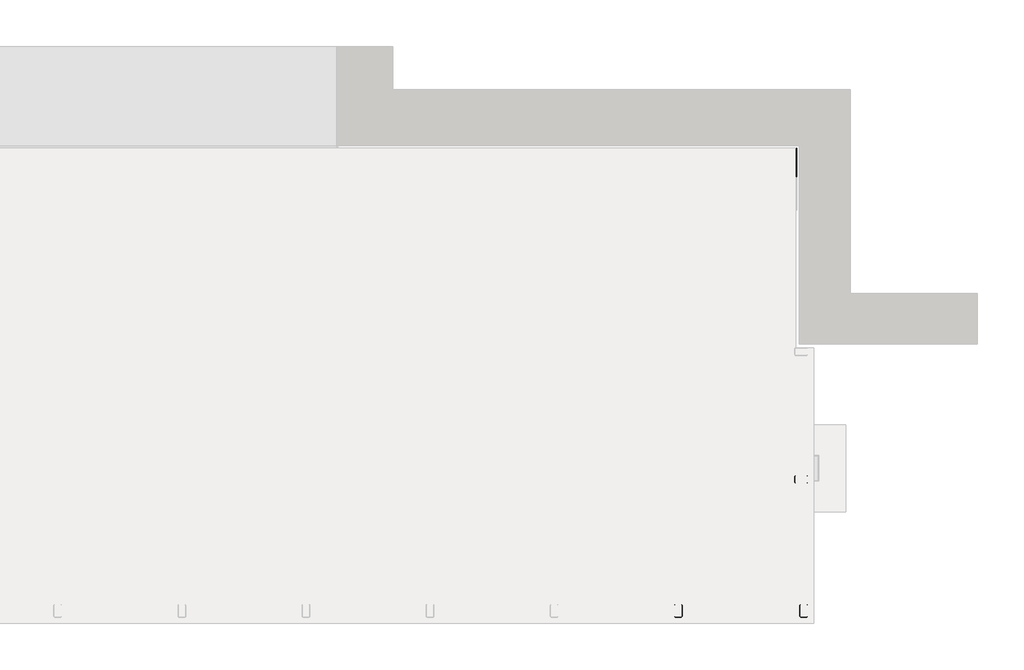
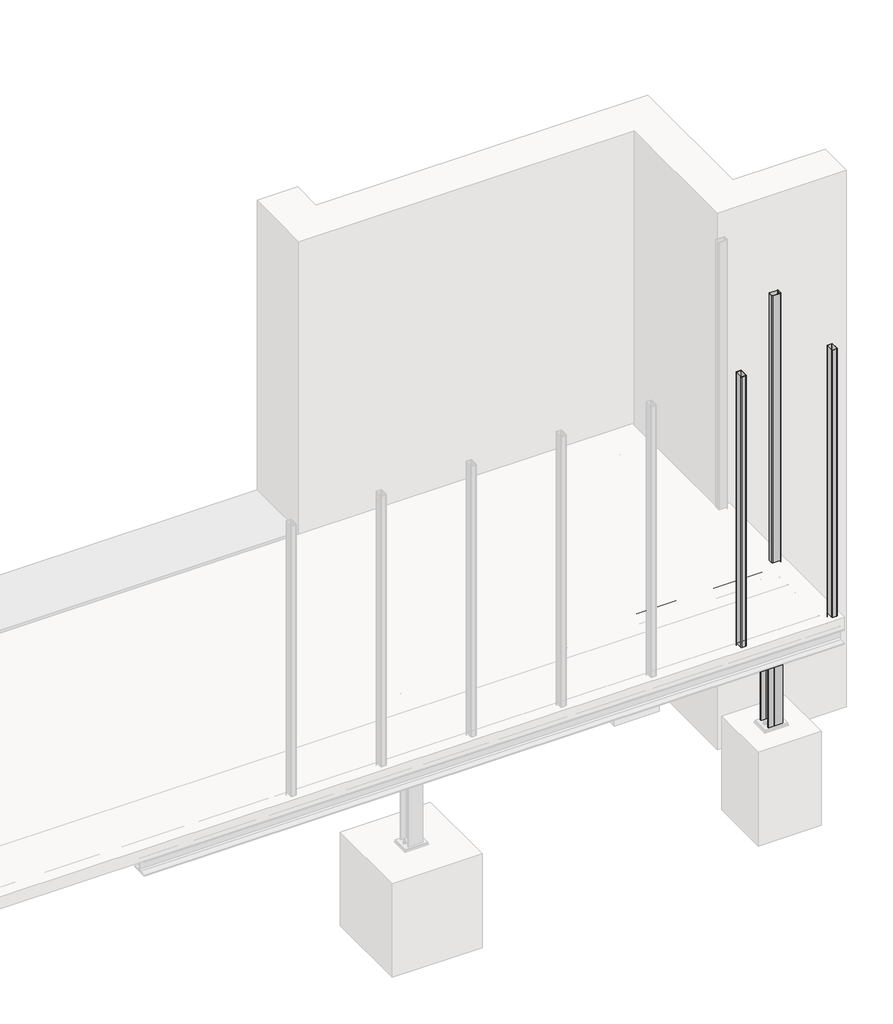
# One storey, part 5 of 36: 23 beams, 5 columns, 3 plates.
"""IFC4 building model written with IfcOpenShell, lengths in millimetres."""

from ifc_helpers import new_model, si_unit, point, frame, frame_2d, origin, place, context, project, spatial, polyline, circle_curve, ellipse_curve, trimmed, segment, composite_curve, outline, extrude, faceted_brep, element, save
from ifc_brep_helpers import plane_surface, revolved_surface, advanced_brep

model = new_model("IFC4")

# Units and contexts
model_context = context("Model", 3, world=origin())
ifc_project = project(units=[si_unit("LENGTHUNIT", "METRE", prefix="MILLI")], contexts=[model_context])

# Site, building, storey
site = spatial("IfcSite", under=ifc_project)
building = spatial("IfcBuilding", under=site)
storey = spatial("IfcBuildingStorey", under=building, Name="Základy", Elevation=-1200.0)

# Beams
placement = place(None, origin())
element("IfcBeam", 1, ObjectType="D8", at=placement, inside=storey, context=model_context, shape_type="SweptSolid", body=[
    extrude(outline(composite_curve([segment(trimmed(circle_curve(frame_2d((-49.0, 14127.5)), 4.0), [point((-49.0, 14123.5))], [point((-49.0, 14131.5))], False, "CARTESIAN"), True, "CONTINUOUS"), segment(trimmed(circle_curve(frame_2d((-49.0, 14127.5)), 4.0), [point((-49.0, 14131.5))], [point((-49.0, 14123.5))], False, "CARTESIAN"), True, "CONTINUOUS")], self_intersect=False)), frame((0.0, 35.0, 0.0), z_axis=(0.0, 1.0, 0.0), x_axis=(0.0, 0.0, 1.0)), (0.0, 0.0, 1.0), 3780.0),
])
element("IfcBeam", 2, ObjectType="D8", at=placement, inside=storey, context=model_context, shape_type="SweptSolid", body=[
    extrude(outline(composite_curve([segment(trimmed(circle_curve(frame_2d((-49.0, 14277.5)), 4.0), [point((-49.0, 14273.5))], [point((-49.0, 14281.5))], False, "CARTESIAN"), True, "CONTINUOUS"), segment(trimmed(circle_curve(frame_2d((-49.0, 14277.5)), 4.0), [point((-49.0, 14281.5))], [point((-49.0, 14273.5))], False, "CARTESIAN"), True, "CONTINUOUS")], self_intersect=False)), frame((0.0, 35.0, 0.0), z_axis=(0.0, 1.0, 0.0), x_axis=(0.0, 0.0, 1.0)), (0.0, 0.0, 1.0), 3780.0),
])
element("IfcBeam", 3, ObjectType="D8", at=placement, inside=storey, context=model_context, shape_type="SweptSolid", body=[
    extrude(outline(composite_curve([segment(trimmed(circle_curve(frame_2d((-49.0, 14427.5)), 4.0), [point((-49.0, 14423.5))], [point((-49.0, 14431.5))], False, "CARTESIAN"), True, "CONTINUOUS"), segment(trimmed(circle_curve(frame_2d((-49.0, 14427.5)), 4.0), [point((-49.0, 14431.5))], [point((-49.0, 14423.5))], False, "CARTESIAN"), True, "CONTINUOUS")], self_intersect=False)), frame((0.0, 35.0, 0.0), z_axis=(0.0, 1.0, 0.0), x_axis=(0.0, 0.0, 1.0)), (0.0, 0.0, 1.0), 3780.0),
])
element("IfcBeam", 4, ObjectType="D8", at=placement, inside=storey, context=model_context, shape_type="SweptSolid", body=[
    extrude(outline(composite_curve([segment(trimmed(circle_curve(frame_2d((-49.0, 14577.5)), 4.0), [point((-49.0, 14573.5))], [point((-49.0, 14581.5))], False, "CARTESIAN"), True, "CONTINUOUS"), segment(trimmed(circle_curve(frame_2d((-49.0, 14577.5)), 4.0), [point((-49.0, 14581.5))], [point((-49.0, 14573.5))], False, "CARTESIAN"), True, "CONTINUOUS")], self_intersect=False)), frame((0.0, 35.0, 0.0), z_axis=(0.0, 1.0, 0.0), x_axis=(0.0, 0.0, 1.0)), (0.0, 0.0, 1.0), 3780.0),
])
element("IfcBeam", 5, ObjectType="D8", at=placement, inside=storey, context=model_context, shape_type="SweptSolid", body=[
    extrude(outline(composite_curve([segment(trimmed(circle_curve(frame_2d((-49.0, 14727.5)), 4.0), [point((-49.0, 14723.5))], [point((-49.0, 14731.5))], False, "CARTESIAN"), True, "CONTINUOUS"), segment(trimmed(circle_curve(frame_2d((-49.0, 14727.5)), 4.0), [point((-49.0, 14731.5))], [point((-49.0, 14723.5))], False, "CARTESIAN"), True, "CONTINUOUS")], self_intersect=False)), frame((0.0, 35.0, 0.0), z_axis=(0.0, 1.0, 0.0), x_axis=(0.0, 0.0, 1.0)), (0.0, 0.0, 1.0), 3780.0),
])
element("IfcBeam", 6, ObjectType="D8", at=placement, inside=storey, context=model_context, shape_type="SweptSolid", body=[
    extrude(outline(composite_curve([segment(trimmed(circle_curve(frame_2d((-49.0, 14877.5)), 4.0), [point((-49.0, 14873.5))], [point((-49.0, 14881.5))], False, "CARTESIAN"), True, "CONTINUOUS"), segment(trimmed(circle_curve(frame_2d((-49.0, 14877.5)), 4.0), [point((-49.0, 14881.5))], [point((-49.0, 14873.5))], False, "CARTESIAN"), True, "CONTINUOUS")], self_intersect=False)), frame((0.0, 35.0, 0.0), z_axis=(0.0, 1.0, 0.0), x_axis=(0.0, 0.0, 1.0)), (0.0, 0.0, 1.0), 3780.0),
])
element("IfcBeam", 7, ObjectType="D8", at=placement, inside=storey, context=model_context, shape_type="SweptSolid", body=[
    extrude(outline(composite_curve([segment(trimmed(circle_curve(frame_2d((-49.0, 15027.5)), 4.0), [point((-49.0, 15023.5))], [point((-49.0, 15031.5))], False, "CARTESIAN"), True, "CONTINUOUS"), segment(trimmed(circle_curve(frame_2d((-49.0, 15027.5)), 4.0), [point((-49.0, 15031.5))], [point((-49.0, 15023.5))], False, "CARTESIAN"), True, "CONTINUOUS")], self_intersect=False)), frame((0.0, 35.0, 0.0), z_axis=(0.0, 1.0, 0.0), x_axis=(0.0, 0.0, 1.0)), (0.0, 0.0, 1.0), 3780.0),
])
element("IfcBeam", 8, ObjectType="D8", at=placement, inside=storey, context=model_context, shape_type="SweptSolid", body=[
    extrude(outline(composite_curve([segment(trimmed(circle_curve(frame_2d((-49.0, 15177.5)), 4.0), [point((-49.0, 15173.5))], [point((-49.0, 15181.5))], False, "CARTESIAN"), True, "CONTINUOUS"), segment(trimmed(circle_curve(frame_2d((-49.0, 15177.5)), 4.0), [point((-49.0, 15181.5))], [point((-49.0, 15173.5))], False, "CARTESIAN"), True, "CONTINUOUS")], self_intersect=False)), frame((0.0, 35.0, 0.0), z_axis=(0.0, 1.0, 0.0), x_axis=(0.0, 0.0, 1.0)), (0.0, 0.0, 1.0), 3780.0),
])
element("IfcBeam", 9, ObjectType="D8", at=placement, inside=storey, context=model_context, shape_type="SweptSolid", body=[
    extrude(outline(composite_curve([segment(trimmed(circle_curve(frame_2d((-49.0, 15327.5)), 4.0), [point((-49.0, 15323.5))], [point((-49.0, 15331.5))], False, "CARTESIAN"), True, "CONTINUOUS"), segment(trimmed(circle_curve(frame_2d((-49.0, 15327.5)), 4.0), [point((-49.0, 15331.5))], [point((-49.0, 15323.5))], False, "CARTESIAN"), True, "CONTINUOUS")], self_intersect=False)), frame((0.0, 35.0, 0.0), z_axis=(0.0, 1.0, 0.0), x_axis=(0.0, 0.0, 1.0)), (0.0, 0.0, 1.0), 3780.0),
])
element("IfcBeam", 10, ObjectType="D8", at=placement, inside=storey, context=model_context, shape_type="SweptSolid", body=[
    extrude(outline(composite_curve([segment(trimmed(circle_curve(frame_2d((-49.0, 15477.5)), 4.0), [point((-49.0, 15473.5))], [point((-49.0, 15481.5))], False, "CARTESIAN"), True, "CONTINUOUS"), segment(trimmed(circle_curve(frame_2d((-49.0, 15477.5)), 4.0), [point((-49.0, 15481.5))], [point((-49.0, 15473.5))], False, "CARTESIAN"), True, "CONTINUOUS")], self_intersect=False)), frame((0.0, 35.0, 0.0), z_axis=(0.0, 1.0, 0.0), x_axis=(0.0, 0.0, 1.0)), (0.0, 0.0, 1.0), 3780.0),
])
element("IfcBeam", 11, ObjectType="D8", at=placement, inside=storey, context=model_context, shape_type="SweptSolid", body=[
    extrude(outline(composite_curve([segment(trimmed(circle_curve(frame_2d((-49.0, 15627.5)), 4.0), [point((-49.0, 15623.5))], [point((-49.0, 15631.5))], False, "CARTESIAN"), True, "CONTINUOUS"), segment(trimmed(circle_curve(frame_2d((-49.0, 15627.5)), 4.0), [point((-49.0, 15631.5))], [point((-49.0, 15623.5))], False, "CARTESIAN"), True, "CONTINUOUS")], self_intersect=False)), frame((0.0, 35.0, 0.0), z_axis=(0.0, 1.0, 0.0), x_axis=(0.0, 0.0, 1.0)), (0.0, 0.0, 1.0), 3780.0),
])
element("IfcBeam", 12, ObjectType="D8", at=placement, inside=storey, context=model_context, shape_type="SweptSolid", body=[
    extrude(outline(composite_curve([segment(trimmed(circle_curve(frame_2d((-49.0, 15777.5)), 4.0), [point((-49.0, 15773.5))], [point((-49.0, 15781.5))], False, "CARTESIAN"), True, "CONTINUOUS"), segment(trimmed(circle_curve(frame_2d((-49.0, 15777.5)), 4.0), [point((-49.0, 15781.5))], [point((-49.0, 15773.5))], False, "CARTESIAN"), True, "CONTINUOUS")], self_intersect=False)), frame((0.0, 35.0, 0.0), z_axis=(0.0, 1.0, 0.0), x_axis=(0.0, 0.0, 1.0)), (0.0, 0.0, 1.0), 3780.0),
])
element("IfcBeam", 13, ObjectType="D8", at=placement, inside=storey, context=model_context, shape_type="SweptSolid", body=[
    extrude(outline(composite_curve([segment(trimmed(circle_curve(frame_2d((-49.0, 15927.5)), 4.0), [point((-49.0, 15923.5))], [point((-49.0, 15931.5))], False, "CARTESIAN"), True, "CONTINUOUS"), segment(trimmed(circle_curve(frame_2d((-49.0, 15927.5)), 4.0), [point((-49.0, 15931.5))], [point((-49.0, 15923.5))], False, "CARTESIAN"), True, "CONTINUOUS")], self_intersect=False)), frame((0.0, 35.0, 0.0), z_axis=(0.0, 1.0, 0.0), x_axis=(0.0, 0.0, 1.0)), (0.0, 0.0, 1.0), 3780.0),
])
element("IfcBeam", 14, ObjectType="HEB180", at=placement, inside=storey, context=model_context, shape_type="AdvancedBrep", body=[
    advanced_brep(
    [(15960.0, 2050.0, -160.0), (16140.0, 2230.0, -160.0), (15995.0, 2230.0, -160.0), (15815.0, 2050.0, -160.0), (15960.0, 2050.0, -174.0), (15815.0, 2050.0, -174.0), (16030.75, 2120.75, -174.0), (15885.75, 2120.75, -174.0), (16045.75, 2135.75, -189.0), (15900.75, 2135.75, -189.0), (16045.75, 2135.75, -311.0), (15900.75, 2135.75, -311.0), (16030.75, 2120.75, -326.0), (15885.75, 2120.75, -326.0), (15960.0, 2050.0, -326.0), (15815.0, 2050.0, -326.0), (15960.0, 2050.0, -340.0), (15815.0, 2050.0, -340.0), (16140.0, 2230.0, -340.0), (15995.0, 2230.0, -340.0), (16140.0, 2230.0, -326.0), (15995.0, 2230.0, -326.0), (16069.25, 2159.25, -326.0), (15924.25, 2159.25, -326.0), (16054.25, 2144.25, -311.0), (15909.25, 2144.25, -311.0), (16054.25, 2144.25, -189.0), (15909.25, 2144.25, -189.0), (16069.25, 2159.25, -174.0), (15924.25, 2159.25, -174.0), (16140.0, 2230.0, -174.0), (15995.0, 2230.0, -174.0)],
    [
        (0, 1),
        (1, 2),
        (2, 3),
        (3, 0),
        (4, 0),
        (3, 5),
        (5, 4),
        (6, 4),
        (5, 7),
        (7, 6),
        (8, 6, ellipse_curve(frame((16030.75, 2120.75, -189.0), z_axis=(0.7071067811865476, -0.7071067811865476, 0.0), x_axis=(-0.7071067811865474, -0.7071067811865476, 0.0)), 21.2132034, 15.0)),
        (7, 9, ellipse_curve(frame((15885.75, 2120.75, -189.0), z_axis=(-0.7071067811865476, 0.7071067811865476, 0.0), x_axis=(-0.7071067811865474, -0.7071067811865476, 0.0)), 21.2132034, 15.0)),
        (9, 8),
        (10, 8),
        (9, 11),
        (11, 10),
        (12, 10, ellipse_curve(frame((16030.75, 2120.75, -311.0), z_axis=(0.7071067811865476, -0.7071067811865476, 0.0), x_axis=(-0.7071067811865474, -0.7071067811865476, 0.0)), 21.2132034, 15.0)),
        (11, 13, ellipse_curve(frame((15885.75, 2120.75, -311.0), z_axis=(-0.7071067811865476, 0.7071067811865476, 0.0), x_axis=(-0.7071067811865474, -0.7071067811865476, 0.0)), 21.2132034, 15.0)),
        (13, 12),
        (14, 12),
        (13, 15),
        (15, 14),
        (16, 14),
        (15, 17),
        (17, 16),
        (18, 16),
        (17, 19),
        (19, 18),
        (20, 18),
        (19, 21),
        (21, 20),
        (22, 20),
        (21, 23),
        (23, 22),
        (24, 22, ellipse_curve(frame((16069.25, 2159.25, -311.0), z_axis=(0.7071067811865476, -0.7071067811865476, 0.0), x_axis=(-0.7071067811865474, -0.7071067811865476, 0.0)), 21.2132034, 15.0)),
        (23, 25, ellipse_curve(frame((15924.25, 2159.25, -311.0), z_axis=(-0.7071067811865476, 0.7071067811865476, 0.0), x_axis=(-0.7071067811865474, -0.7071067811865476, 0.0)), 21.2132034, 15.0)),
        (25, 24),
        (26, 24),
        (25, 27),
        (27, 26),
        (28, 26, ellipse_curve(frame((16069.25, 2159.25, -189.0), z_axis=(0.7071067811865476, -0.7071067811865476, 0.0), x_axis=(-0.7071067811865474, -0.7071067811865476, 0.0)), 21.2132034, 15.0)),
        (27, 29, ellipse_curve(frame((15924.25, 2159.25, -189.0), z_axis=(-0.7071067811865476, 0.7071067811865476, 0.0), x_axis=(-0.7071067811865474, -0.7071067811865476, 0.0)), 21.2132034, 15.0)),
        (29, 28),
        (30, 28),
        (29, 31),
        (31, 30),
        (1, 30),
        (31, 2),
    ],
    [
        plane_surface(frame((16150.0, 2230.0, -160.0), z_axis=(0.0, 0.0, 1.0), x_axis=(-1.0, 0.0, 0.0))),
        plane_surface(frame((16150.0, 2050.0, -160.0), z_axis=(0.0, -1.0, 0.0), x_axis=(-1.0, 0.0, 0.0))),
        plane_surface(frame((16150.0, 2050.0, -174.0), z_axis=(0.0, 0.0, -1.0), x_axis=(-1.0, 0.0, 0.0))),
        revolved_surface(polyline([(15870.750000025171, 2105.75, -189.0), (16045.75, 2105.75, -189.0)]), (15805.0, 2120.75, -189.0), (-1.0, 0.0, 0.0)),
        plane_surface(frame((16150.0, 2135.75, -189.0), z_axis=(0.0, -1.0, 0.0), x_axis=(-1.0, 0.0, 0.0))),
        revolved_surface(polyline([(15870.750000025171, 2105.75, -311.0), (16045.75, 2105.75, -311.0)]), (15805.0, 2120.75, -311.0), (-1.0, 0.0, 0.0)),
        plane_surface(frame((16150.0, 2120.75, -326.0), z_axis=(0.0, 0.0, 1.0), x_axis=(-1.0, 0.0, 0.0))),
        plane_surface(frame((16150.0, 2050.0, -326.0), z_axis=(0.0, -1.0, 0.0), x_axis=(-1.0, 0.0, 0.0))),
        plane_surface(frame((16150.0, 2050.0, -340.0), z_axis=(0.0, 0.0, -1.0), x_axis=(-1.0, 0.0, 0.0))),
        plane_surface(frame((16150.0, 2230.0, -340.0), z_axis=(0.0, 1.0, 0.0), x_axis=(-1.0, 0.0, 0.0))),
        plane_surface(frame((16150.0, 2230.0, -326.0), z_axis=(0.0, 0.0, 1.0), x_axis=(-1.0, 0.0, 0.0))),
        revolved_surface(polyline([(15909.25, 2144.25, -311.0), (16084.249999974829, 2144.25, -311.0)]), (15805.0, 2159.25, -311.0), (-1.0, 0.0, 0.0)),
        plane_surface(frame((16150.0, 2144.25, -311.0), z_axis=(0.0, 1.0, 0.0), x_axis=(-1.0, 0.0, 0.0))),
        revolved_surface(polyline([(15909.25, 2144.25, -189.0), (16084.249999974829, 2144.25, -189.0)]), (15805.0, 2159.25, -189.0), (-1.0, 0.0, 0.0)),
        plane_surface(frame((16150.0, 2159.25, -174.0), z_axis=(0.0, 0.0, -1.0), x_axis=(-1.0, 0.0, 0.0))),
        plane_surface(frame((16150.0, 2230.0, -174.0), z_axis=(0.0, 1.0, 0.0), x_axis=(-1.0, 0.0, 0.0))),
        plane_surface(frame((16150.0, 2240.0, -160.0), z_axis=(0.7071067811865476, -0.7071067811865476, 0.0), x_axis=(0.7071067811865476, 0.7071067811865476, 0.0))),
        plane_surface(frame((15805.0, 2040.0, -160.0), z_axis=(-0.7071067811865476, 0.7071067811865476, 0.0), x_axis=(0.7071067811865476, 0.7071067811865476, 0.0))),
    ],
    [
        (0, [[1, 2, 3, 4]]),
        (1, [[5, -4, 6, 7]]),
        (2, [[8, -7, 9, 10]]),
        (3, [[11, -10, 12, 13]]),
        (4, [[14, -13, 15, 16]]),
        (5, [[17, -16, 18, 19]]),
        (6, [[20, -19, 21, 22]]),
        (7, [[23, -22, 24, 25]]),
        (8, [[26, -25, 27, 28]]),
        (9, [[29, -28, 30, 31]]),
        (10, [[32, -31, 33, 34]]),
        (11, [[35, -34, 36, 37]]),
        (12, [[38, -37, 39, 40]]),
        (13, [[41, -40, 42, 43]]),
        (14, [[44, -43, 45, 46]]),
        (15, [[47, -46, 48, -2]]),
        (16, [[-1, -5, -8, -11, -14, -17, -20, -23, -26, -29, -32, -35, -38, -41, -44, -47]]),
        (17, [[-3, -48, -45, -42, -39, -36, -33, -30, -27, -24, -21, -18, -15, -12, -9, -6]]),
    ],
),
])
element("IfcBeam", 15, ObjectType="HEB180", at=placement, inside=storey, context=model_context, shape_type="AdvancedBrep", body=[
    advanced_brep(
    [(15995.0, 3840.0, -340.0), (15815.0, 3840.0, -340.0), (15815.0, 3840.0, -326.0), (15885.75, 3840.0, -326.0), (15900.75, 3840.0, -311.0), (15900.75, 3840.0, -189.0), (15885.75, 3840.0, -174.0), (15815.0, 3840.0, -174.0), (15815.0, 3840.0, -160.0), (15995.0, 3840.0, -160.0), (15995.0, 3840.0, -174.0), (15924.25, 3840.0, -174.0), (15909.25, 3840.0, -189.0), (15909.25, 3840.0, -311.0), (15924.25, 3840.0, -326.0), (15995.0, 3840.0, -326.0), (15995.0, 2230.0, -340.0), (15815.0, 2050.0, -340.0), (15815.0, 2050.0, -326.0), (15885.75, 2120.75, -326.0), (15900.75, 2135.75, -311.0), (15900.75, 2135.75, -189.0), (15885.75, 2120.75, -174.0), (15815.0, 2050.0, -174.0), (15815.0, 2050.0, -160.0), (15995.0, 2230.0, -160.0), (15995.0, 2230.0, -174.0), (15924.25, 2159.25, -174.0), (15909.25, 2144.25, -189.0), (15909.25, 2144.25, -311.0), (15924.25, 2159.25, -326.0), (15995.0, 2230.0, -326.0)],
    [
        (0, 1),
        (1, 2),
        (2, 3),
        (3, 4, circle_curve(frame((15885.75, 3840.0, -311.0), z_axis=(0.0, -1.0, 0.0), x_axis=(-1.0, 0.0, 0.0)), 15.0)),
        (4, 5),
        (5, 6, circle_curve(frame((15885.75, 3840.0, -189.0), z_axis=(0.0, -1.0, 0.0), x_axis=(-1.0, 0.0, 0.0)), 15.0)),
        (6, 7),
        (7, 8),
        (8, 9),
        (9, 10),
        (10, 11),
        (11, 12, circle_curve(frame((15924.25, 3840.0, -189.0), z_axis=(0.0, -1.0, 0.0), x_axis=(-1.0, 0.0, 0.0)), 15.0)),
        (12, 13),
        (13, 14, circle_curve(frame((15924.25, 3840.0, -311.0), z_axis=(0.0, -1.0, 0.0), x_axis=(-1.0, 0.0, 0.0)), 15.0)),
        (14, 15),
        (15, 0),
        (0, 16),
        (16, 17),
        (17, 1),
        (17, 18),
        (18, 2),
        (18, 19),
        (19, 3),
        (19, 20, ellipse_curve(frame((15885.75, 2120.75, -311.0), z_axis=(0.7071067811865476, -0.7071067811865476, 0.0), x_axis=(-0.7071067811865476, -0.7071067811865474, 0.0)), 21.2132034, 15.0)),
        (20, 4),
        (20, 21),
        (21, 5),
        (21, 22, ellipse_curve(frame((15885.75, 2120.75, -189.0), z_axis=(0.7071067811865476, -0.7071067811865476, 0.0), x_axis=(-0.7071067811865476, -0.7071067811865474, 0.0)), 21.2132034, 15.0)),
        (22, 6),
        (22, 23),
        (23, 7),
        (23, 24),
        (24, 8),
        (24, 25),
        (25, 9),
        (25, 26),
        (26, 10),
        (26, 27),
        (27, 11),
        (27, 28, ellipse_curve(frame((15924.25, 2159.25, -189.0), z_axis=(0.7071067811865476, -0.7071067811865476, 0.0), x_axis=(-0.7071067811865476, -0.7071067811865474, 0.0)), 21.2132034, 15.0)),
        (28, 12),
        (28, 29),
        (29, 13),
        (29, 30, ellipse_curve(frame((15924.25, 2159.25, -311.0), z_axis=(0.7071067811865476, -0.7071067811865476, 0.0), x_axis=(-0.7071067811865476, -0.7071067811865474, 0.0)), 21.2132034, 15.0)),
        (30, 14),
        (30, 31),
        (31, 15),
        (31, 16),
    ],
    [
        plane_surface(frame((15905.0, 3840.0, -250.0), z_axis=(0.0, 1.0, 0.0), x_axis=(0.0, 0.0, 1.0))),
        plane_surface(frame((15995.0, 3840.0, -340.0), z_axis=(0.0, 0.0, -1.0), x_axis=(0.0, -1.0, 0.0))),
        plane_surface(frame((15815.0, 3840.0, -340.0), z_axis=(-1.0, 0.0, 0.0), x_axis=(0.0, -1.0, 0.0))),
        plane_surface(frame((15815.0, 3840.0, -326.0), z_axis=(0.0, 0.0, 1.0), x_axis=(0.0, -1.0, 0.0))),
        revolved_surface(polyline([(15870.75, 2105.7500000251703, -311.0), (15870.75, 3840.0, -311.0)]), (15885.75, 2040.0, -311.0), (0.0, -1.0, 0.0)),
        plane_surface(frame((15900.75, 3840.0, -311.0), z_axis=(-1.0, 0.0, 0.0), x_axis=(0.0, -1.0, 0.0))),
        revolved_surface(polyline([(15870.75, 2105.7500000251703, -189.0), (15870.75, 3840.0, -189.0)]), (15885.75, 2040.0, -189.0), (0.0, -1.0, 0.0)),
        plane_surface(frame((15885.75, 3840.0, -174.0), z_axis=(0.0, 0.0, -1.0), x_axis=(0.0, -1.0, 0.0))),
        plane_surface(frame((15815.0, 3840.0, -174.0), z_axis=(-1.0, 0.0, 0.0), x_axis=(0.0, -1.0, 0.0))),
        plane_surface(frame((15815.0, 3840.0, -160.0), z_axis=(0.0, 0.0, 1.0), x_axis=(0.0, -1.0, 0.0))),
        plane_surface(frame((15995.0, 3840.0, -160.0), z_axis=(1.0, 0.0, 0.0), x_axis=(0.0, -1.0, 0.0))),
        plane_surface(frame((15995.0, 3840.0, -174.0), z_axis=(0.0, 0.0, -1.0), x_axis=(0.0, -1.0, 0.0))),
        revolved_surface(polyline([(15909.25, 2144.25, -189.0), (15909.25, 3840.0, -189.0)]), (15924.25, 2040.0, -189.0), (0.0, -1.0, 0.0)),
        plane_surface(frame((15909.25, 3840.0, -189.0), z_axis=(1.0, 0.0, 0.0), x_axis=(0.0, -1.0, 0.0))),
        revolved_surface(polyline([(15909.25, 2144.25, -311.0), (15909.25, 3840.0, -311.0)]), (15924.25, 2040.0, -311.0), (0.0, -1.0, 0.0)),
        plane_surface(frame((15924.25, 3840.0, -326.0), z_axis=(0.0, 0.0, 1.0), x_axis=(0.0, -1.0, 0.0))),
        plane_surface(frame((15995.0, 3840.0, -326.0), z_axis=(1.0, 0.0, 0.0), x_axis=(0.0, -1.0, 0.0))),
        plane_surface(frame((16005.0, 2240.0, -160.0), z_axis=(0.7071067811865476, -0.7071067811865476, 0.0), x_axis=(0.7071067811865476, 0.7071067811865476, 0.0))),
    ],
    [
        (0, [[1, 2, 3, 4, 5, 6, 7, 8, 9, 10, 11, 12, 13, 14, 15, 16]]),
        (1, [[-1, 17, 18, 19]]),
        (2, [[-2, -19, 20, 21]]),
        (3, [[-3, -21, 22, 23]]),
        (4, [[-4, -23, 24, 25]]),
        (5, [[-5, -25, 26, 27]]),
        (6, [[-6, -27, 28, 29]]),
        (7, [[-7, -29, 30, 31]]),
        (8, [[-8, -31, 32, 33]]),
        (9, [[-9, -33, 34, 35]]),
        (10, [[-10, -35, 36, 37]]),
        (11, [[-11, -37, 38, 39]]),
        (12, [[-12, -39, 40, 41]]),
        (13, [[-13, -41, 42, 43]]),
        (14, [[-14, -43, 44, 45]]),
        (15, [[-15, -45, 46, 47]]),
        (16, [[-16, -47, 48, -17]]),
        (17, [[-18, -48, -46, -44, -42, -40, -38, -36, -34, -32, -30, -28, -26, -24, -22, -20]]),
    ],
),
])
element("IfcBeam", 16, ObjectType="HEB180", at=placement, inside=storey, context=model_context, shape_type="SweptSolid", body=[
    extrude(outline(composite_curve([segment(polyline([(1170.0, -160.0), (1350.0, -160.0), (1350.0, -174.0), (1279.25, -174.0)]), True, "CONTINUOUS"), segment(trimmed(circle_curve(frame_2d((1279.25, -189.0)), 15.0), [point((1279.25, -174.0))], [point((1264.25, -189.0))], True, "CARTESIAN"), True, "CONTINUOUS"), segment(polyline([(1264.25, -189.0), (1264.25, -311.0)]), True, "CONTINUOUS"), segment(trimmed(circle_curve(frame_2d((1279.25, -311.0)), 15.0), [point((1264.25, -311.0))], [point((1279.25, -326.0))], True, "CARTESIAN"), True, "CONTINUOUS"), segment(polyline([(1279.25, -326.0), (1350.0, -326.0), (1350.0, -340.0), (1170.0, -340.0), (1170.0, -326.0), (1240.75, -326.0)]), True, "CONTINUOUS"), segment(trimmed(circle_curve(frame_2d((1240.75, -311.0)), 15.0), [point((1240.75, -326.0))], [point((1255.75, -311.0))], True, "CARTESIAN"), True, "CONTINUOUS"), segment(polyline([(1255.75, -311.0), (1255.75, -189.0)]), True, "CONTINUOUS"), segment(trimmed(circle_curve(frame_2d((1240.75, -189.0)), 15.0), [point((1255.75, -189.0))], [point((1240.75, -174.0))], True, "CARTESIAN"), True, "CONTINUOUS"), segment(polyline([(1240.75, -174.0), (1170.0, -174.0), (1170.0, -160.0)]), True, "CONTINUOUS")], self_intersect=False)), frame((12160.0, 0.0, 0.0), z_axis=(1.0, 0.0, 0.0), x_axis=(0.0, 1.0, 0.0)), (0.0, 0.0, 1.0), 3780.0),
])
element("IfcBeam", 17, ObjectType="IPE180", at=placement, inside=storey, context=model_context, shape_type="SweptSolid", body=[
    extrude(outline(composite_curve([segment(polyline([(-340.0, 14095.5), (-332.0, 14095.5), (-332.0, 14061.6500001)]), True, "CONTINUOUS"), segment(trimmed(circle_curve(frame_2d((-323.0, 14061.6500001)), 9.0), [point((-332.0, 14061.6500001))], [point((-323.0, 14052.6500001))], True, "CARTESIAN"), True, "CONTINUOUS"), segment(polyline([(-323.0, 14052.6500001), (-177.0, 14052.6500001)]), True, "CONTINUOUS"), segment(trimmed(circle_curve(frame_2d((-177.0, 14061.6500001)), 9.0), [point((-177.0, 14052.6500001))], [point((-168.0, 14061.6500001))], True, "CARTESIAN"), True, "CONTINUOUS"), segment(polyline([(-168.0, 14061.6500001), (-168.0, 14095.5), (-160.0, 14095.5), (-160.0, 14004.5), (-168.0, 14004.5), (-168.0, 14038.3499999)]), True, "CONTINUOUS"), segment(trimmed(circle_curve(frame_2d((-177.0, 14038.3499999)), 9.0), [point((-168.0, 14038.3499999))], [point((-177.0, 14047.3499999))], True, "CARTESIAN"), True, "CONTINUOUS"), segment(polyline([(-177.0, 14047.3499999), (-323.0, 14047.3499999)]), True, "CONTINUOUS"), segment(trimmed(circle_curve(frame_2d((-323.0, 14038.3499999)), 9.0), [point((-323.0, 14047.3499999))], [point((-332.0, 14038.3499999))], True, "CARTESIAN"), True, "CONTINUOUS"), segment(polyline([(-332.0, 14038.3499999), (-332.0, 14004.5), (-340.0, 14004.5), (-340.0, 14095.5)]), True, "CONTINUOUS")], self_intersect=False)), frame((0.0, 210.0, 0.0), z_axis=(0.0, 1.0, 0.0), x_axis=(0.0, 0.0, 1.0)), (0.0, 0.0, 1.0), 940.0),
])
element("IfcBeam", 18, ObjectType="IPE180", at=placement, inside=storey, context=model_context, shape_type="SweptSolid", body=[
    extrude(outline(composite_curve([segment(polyline([(-340.0, 14004.5), (-340.0, 14095.5), (-332.0, 14095.5), (-332.0, 14061.6500001)]), True, "CONTINUOUS"), segment(trimmed(circle_curve(frame_2d((-323.0, 14061.6500001)), 9.0), [point((-332.0, 14061.6500001))], [point((-323.0, 14052.6500001))], True, "CARTESIAN"), True, "CONTINUOUS"), segment(polyline([(-323.0, 14052.6500001), (-177.0, 14052.6500001)]), True, "CONTINUOUS"), segment(trimmed(circle_curve(frame_2d((-177.0, 14061.6500001)), 9.0), [point((-177.0, 14052.6500001))], [point((-168.0, 14061.6500001))], True, "CARTESIAN"), True, "CONTINUOUS"), segment(polyline([(-168.0, 14061.6500001), (-168.0, 14095.5), (-160.0, 14095.5), (-160.0, 14004.5), (-168.0, 14004.5), (-168.0, 14038.3499999)]), True, "CONTINUOUS"), segment(trimmed(circle_curve(frame_2d((-177.0, 14038.3499999)), 9.0), [point((-168.0, 14038.3499999))], [point((-177.0, 14047.3499999))], True, "CARTESIAN"), True, "CONTINUOUS"), segment(polyline([(-177.0, 14047.3499999), (-323.0, 14047.3499999)]), True, "CONTINUOUS"), segment(trimmed(circle_curve(frame_2d((-323.0, 14038.3499999)), 9.0), [point((-323.0, 14047.3499999))], [point((-332.0, 14038.3499999))], True, "CARTESIAN"), True, "CONTINUOUS"), segment(polyline([(-332.0, 14038.3499999), (-332.0, 14004.5), (-340.0, 14004.5)]), True, "CONTINUOUS")], self_intersect=False)), frame((0.0, 1370.0, 0.0), z_axis=(0.0, 1.0, 0.0), x_axis=(0.0, 0.0, 1.0)), (0.0, 0.0, 1.0), 2375.0),
])
element("IfcBeam", 19, ObjectType="TR50/250", at=placement, inside=storey, context=model_context, shape_type="SweptSolid", body=[
    extrude(outline(polyline([(3802.7875602, -160.0099992), (3772.2875602, -111.5000008), (3637.6975638, -111.5000008), (3607.1975638, -160.0000008), (3552.7875754, -160.0000008), (3522.2875754, -111.5000008), (3387.6975715, -111.5000008), (3357.1975715, -160.0000008), (3302.7875697, -160.0000008), (3272.2875716, -111.5000008), (3137.6975638, -111.5000008), (3107.1975638, -160.0000008), (3052.7875602, -160.0000008), (3022.2875602, -111.5000008), (2887.6975638, -111.5000008), (2857.1975638, -160.0000008), (2802.7875602, -160.0000008), (2790.7375724, -139.4300002), (2803.1975638, -159.2500008), (2856.7875602, -159.2500008), (2887.2875602, -110.7500008), (3022.6975638, -110.7500008), (3053.1975638, -159.2500008), (3106.7875754, -159.2500008), (3137.2875754, -110.7500008), (3272.6975715, -110.7500008), (3303.1975695, -159.2500008), (3356.7875716, -159.2500008), (3387.2875678, -110.7500008), (3522.6975638, -110.7500008), (3553.1975638, -159.2500008), (3606.7875602, -159.2500008), (3637.2875602, -110.7500008), (3772.6975638, -110.7500008), (3803.1975638, -159.2500008), (3839.9975821, -160.0000008), (3802.7875602, -160.0099992)])), frame((11960.0, 0.0, 0.0), z_axis=(1.0, 0.0, 0.0), x_axis=(0.0, 1.0, 0.0)), (0.0, 0.0, 1.0), 4035.0),
])
element("IfcBeam", 20, ObjectType="TR50/250", at=placement, inside=storey, context=model_context, shape_type="Brep", body=[
    faceted_brep([(11960.0, 2802.7875602, -160.0099992), (11960.0, 2772.2875602, -111.5000008), (11960.0, 2637.6975638, -111.5000008), (11960.0, 2607.1975638, -160.0000008), (11960.0, 2552.7875754, -160.0000008), (11960.0, 2522.2875754, -111.5000008), (11960.0, 2387.6975715, -111.5000008), (11960.0, 2357.1975715, -160.0000008), (11960.0, 2302.7875697, -160.0000008), (11960.0, 2272.2875716, -111.5000008), (11960.0, 2137.6975638, -111.5000008), (11960.0, 2107.1975638, -160.0000008), (11960.0, 2052.7875602, -160.0000008), (11960.0, 2022.2875602, -111.5000008), (11960.0, 1887.6975638, -111.5000008), (11960.0, 1857.1975638, -160.0000008), (11960.0, 1802.7875602, -160.0000008), (11960.0, 1790.7375724, -139.4300002), (11960.0, 1803.1975638, -159.2500008), (11960.0, 1856.7875602, -159.2500008), (11960.0, 1887.2875602, -110.7500008), (11960.0, 2022.6975638, -110.7500008), (11960.0, 2053.1975638, -159.2500008), (11960.0, 2106.7875754, -159.2500008), (11960.0, 2137.2875754, -110.7500008), (11960.0, 2272.6975715, -110.7500008), (11960.0, 2303.1975695, -159.2500008), (11960.0, 2356.7875716, -159.2500008), (11960.0, 2387.2875678, -110.7500008), (11960.0, 2522.6975638, -110.7500008), (11960.0, 2553.1975638, -159.2500008), (11960.0, 2606.7875602, -159.2500008), (11960.0, 2637.2875602, -110.7500008), (11960.0, 2772.6975638, -110.7500008), (11960.0, 2803.1975638, -159.2500008), (11960.0, 2839.9975821, -160.0000008), (16140.0, 2137.2875754, -110.7500008), (16140.0, 2106.7875754, -159.2500008), (16140.0, 2053.1975638, -159.2500008), (16140.0, 2022.6975638, -110.7500008), (16140.0, 1887.2875602, -110.7500008), (16140.0, 1856.7875602, -159.2500008), (16140.0, 1803.1975638, -159.2500008), (16140.0, 1790.7375724, -139.4300002), (16140.0, 1802.7875602, -160.0000008), (16140.0, 1857.1975638, -160.0000008), (16140.0, 1887.6975638, -111.5000008), (16140.0, 2022.2875602, -111.5000008), (16140.0, 2052.7875602, -160.0000008), (16140.0, 2107.1975638, -160.0000008), (16140.0, 2137.6975638, -111.5000008), (16140.0, 2230.0, -111.5000008), (16140.0, 2230.0, -110.7500008), (15995.0, 2802.7875602, -160.0099992), (15995.0, 2772.2875602, -111.5000008), (15995.0, 2637.6975638, -111.5000008), (15995.0, 2607.1975638, -160.0000008), (15995.0, 2552.7875754, -160.0000008), (15995.0, 2522.2875754, -111.5000008), (15995.0, 2387.6975715, -111.5000008), (15995.0, 2357.1975715, -160.0000008), (15995.0, 2302.7875697, -160.0000008), (15995.0, 2272.2875716, -111.5000008), (15995.0, 2230.0, -111.5000008), (15995.0, 2230.0, -110.7500008), (15995.0, 2272.6975715, -110.7500008), (15995.0, 2303.1975695, -159.2500008), (15995.0, 2356.7875716, -159.2500008), (15995.0, 2387.2875678, -110.7500008), (15995.0, 2522.6975638, -110.7500008), (15995.0, 2553.1975638, -159.2500008), (15995.0, 2606.7875602, -159.2500008), (15995.0, 2637.2875602, -110.7500008), (15995.0, 2772.6975638, -110.7500008), (15995.0, 2803.1975638, -159.2500008), (15995.0, 2839.9975821, -160.0000008)], [[[0, 1, 2, 3, 4, 5, 6, 7, 8, 9, 10, 11, 12, 13, 14, 15, 16, 17, 18, 19, 20, 21, 22, 23, 24, 25, 26, 27, 28, 29, 30, 31, 32, 33, 34, 35]], [[36, 37, 38, 39, 40, 41, 42, 43, 44, 45, 46, 47, 48, 49, 50, 51, 52]], [[1, 0, 53, 54]], [[2, 1, 54, 55]], [[3, 2, 55, 56]], [[4, 3, 56, 57]], [[5, 4, 57, 58]], [[6, 5, 58, 59]], [[7, 6, 59, 60]], [[8, 7, 60, 61]], [[9, 8, 61, 62]], [[10, 9, 62, 63, 51, 50]], [[11, 10, 50, 49]], [[12, 11, 49, 48]], [[13, 12, 48, 47]], [[14, 13, 47, 46]], [[15, 14, 46, 45]], [[16, 15, 45, 44]], [[17, 16, 44, 43]], [[18, 17, 43, 42]], [[19, 18, 42, 41]], [[20, 19, 41, 40]], [[21, 20, 40, 39]], [[22, 21, 39, 38]], [[23, 22, 38, 37]], [[24, 23, 37, 36]], [[25, 24, 36, 52, 64, 65]], [[26, 25, 65, 66]], [[27, 26, 66, 67]], [[28, 27, 67, 68]], [[29, 28, 68, 69]], [[30, 29, 69, 70]], [[31, 30, 70, 71]], [[32, 31, 71, 72]], [[33, 32, 72, 73]], [[34, 33, 73, 74]], [[35, 34, 74, 75]], [[0, 35, 75, 53]], [[63, 64, 52, 51]], [[64, 63, 62, 61, 60, 59, 58, 57, 56, 55, 54, 53, 75, 74, 73, 72, 71, 70, 69, 68, 67, 66, 65]]]),
])
element("IfcBeam", 21, ObjectType="TR50/250", at=placement, inside=storey, context=model_context, shape_type="SweptSolid", body=[
    extrude(outline(polyline([(1802.7875602, -160.0099992), (1772.2875602, -111.5000008), (1637.6975638, -111.5000008), (1607.1975638, -160.0000008), (1552.7875754, -160.0000008), (1522.2875754, -111.5000008), (1387.6975715, -111.5000008), (1357.1975715, -160.0000008), (1302.7875697, -160.0000008), (1272.2875716, -111.5000008), (1137.6975638, -111.5000008), (1107.1975638, -160.0000008), (1052.7875602, -160.0000008), (1022.2875602, -111.5000008), (887.6975638, -111.5000008), (857.1975638, -160.0000008), (802.7875602, -160.0000008), (790.7375724, -139.4300002), (803.1975638, -159.2500008), (856.7875602, -159.2500008), (887.2875602, -110.7500008), (1022.6975638, -110.7500008), (1053.1975638, -159.2500008), (1106.7875754, -159.2500008), (1137.2875754, -110.7500008), (1272.6975715, -110.7500008), (1303.1975695, -159.2500008), (1356.7875716, -159.2500008), (1387.2875678, -110.7500008), (1522.6975638, -110.7500008), (1553.1975638, -159.2500008), (1606.7875602, -159.2500008), (1637.2875602, -110.7500008), (1772.6975638, -110.7500008), (1803.1975638, -159.2500008), (1839.9975821, -160.0000008), (1802.7875602, -160.0099992)])), frame((11960.0, 0.0, 0.0), z_axis=(1.0, 0.0, 0.0), x_axis=(0.0, 1.0, 0.0)), (0.0, 0.0, 1.0), 4180.0),
])
element("IfcBeam", 22, ObjectType="TR50/250", at=placement, inside=storey, context=model_context, shape_type="SweptSolid", body=[
    extrude(outline(polyline([(802.7875602, -160.0099992), (772.2875602, -111.5000008), (637.6975638, -111.5000008), (607.1975638, -160.0000008), (552.7875754, -160.0000008), (522.2875754, -111.5000008), (387.6975715, -111.5000008), (357.1975715, -160.0000008), (302.7875697, -160.0000008), (272.2875716, -111.5000008), (160.0, -111.5000008), (160.0, -110.7500008), (272.6975715, -110.7500008), (303.1975695, -159.2500008), (356.7875716, -159.2500008), (387.2875678, -110.7500008), (522.6975638, -110.7500008), (553.1975638, -159.2500008), (606.7875602, -159.2500008), (637.2875602, -110.7500008), (772.6975638, -110.7500008), (803.1975638, -159.2500008), (839.9975821, -160.0000008), (802.7875602, -160.0099992)])), frame((11960.0, 0.0, 0.0), z_axis=(1.0, 0.0, 0.0), x_axis=(0.0, 1.0, 0.0)), (0.0, 0.0, 1.0), 4180.0),
])
element("IfcBeam", 23, ObjectType="UPE180", at=placement, inside=storey, context=model_context, shape_type="SweptSolid", body=[
    extrude(outline(polyline([(3840.0, -160.0), (3840.0, -340.0), (3765.0, -340.0), (3765.0, -329.5), (3834.5, -329.5), (3834.5, -170.5), (3765.0, -170.5), (3765.0, -160.0), (3840.0, -160.0)])), frame((12315.0, 0.0, 0.0), z_axis=(1.0, 0.0, 0.0), x_axis=(0.0, 1.0, 0.0)), (0.0, 0.0, 1.0), 3482.0),
])

# Columns
element("IfcColumn", 24, ObjectType="RHS100*60*3.2", at=placement, inside=storey, context=model_context, shape_type="SweptSolid", body=[
    extrude(outline(composite_curve([segment(polyline([(16090.0, 1193.6), (16090.0, 1146.4)]), True, "CONTINUOUS"), segment(trimmed(circle_curve(frame_2d((16083.6, 1146.4)), 6.4), [point((16090.0, 1146.4))], [point((16083.6, 1140.0))], False, "CARTESIAN"), True, "CONTINUOUS"), segment(polyline([(16083.6, 1140.0), (15996.4, 1140.0)]), True, "CONTINUOUS"), segment(trimmed(circle_curve(frame_2d((15996.4, 1146.4)), 6.4), [point((15996.4, 1140.0))], [point((15990.0, 1146.4))], False, "CARTESIAN"), True, "CONTINUOUS"), segment(polyline([(15990.0, 1146.4), (15990.0, 1193.6)]), True, "CONTINUOUS"), segment(trimmed(circle_curve(frame_2d((15996.4, 1193.6)), 6.4), [point((15990.0, 1193.6))], [point((15996.4, 1200.0))], False, "CARTESIAN"), True, "CONTINUOUS"), segment(polyline([(15996.4, 1200.0), (16083.6, 1200.0)]), True, "CONTINUOUS"), segment(trimmed(circle_curve(frame_2d((16083.6, 1193.6)), 6.4), [point((16083.6, 1200.0))], [point((16090.0, 1193.6))], False, "CARTESIAN"), True, "CONTINUOUS")], self_intersect=False), holes=[composite_curve([segment(trimmed(circle_curve(frame_2d((16083.6, 1193.6)), 3.2), [point((16086.8, 1193.6))], [point((16083.6, 1196.8))], True, "CARTESIAN"), True, "CONTINUOUS"), segment(polyline([(16083.6, 1196.8), (15996.4, 1196.8)]), True, "CONTINUOUS"), segment(trimmed(circle_curve(frame_2d((15996.4, 1193.6)), 3.2), [point((15996.4, 1196.8))], [point((15993.2, 1193.6))], True, "CARTESIAN"), True, "CONTINUOUS"), segment(polyline([(15993.2, 1193.6), (15993.2, 1146.4)]), True, "CONTINUOUS"), segment(trimmed(circle_curve(frame_2d((15996.4, 1146.4)), 3.2), [point((15993.2, 1146.4))], [point((15996.4, 1143.2))], True, "CARTESIAN"), True, "CONTINUOUS"), segment(polyline([(15996.4, 1143.2), (16083.6, 1143.2)]), True, "CONTINUOUS"), segment(trimmed(circle_curve(frame_2d((16083.6, 1146.4)), 3.2), [point((16083.6, 1143.2))], [point((16086.8, 1146.4))], True, "CARTESIAN"), True, "CONTINUOUS"), segment(polyline([(16086.8, 1146.4), (16086.8, 1193.6)]), True, "CONTINUOUS")], self_intersect=False)]), frame((0.0, 0.0, -160.0), z_axis=(0.0, 0.0, 1.0), x_axis=(1.0, 0.0, 0.0)), (0.0, 0.0, 1.0), 3280.0),
])
element("IfcColumn", 25, ObjectType="RHS100*60*3.2", at=placement, inside=storey, context=model_context, shape_type="SweptSolid", body=[
    extrude(outline(composite_curve([segment(polyline([(15073.6, 60.0), (15026.4, 60.0)]), True, "CONTINUOUS"), segment(trimmed(circle_curve(frame_2d((15026.4, 66.4)), 6.4), [point((15026.4, 60.0))], [point((15020.0, 66.4))], False, "CARTESIAN"), True, "CONTINUOUS"), segment(polyline([(15020.0, 66.4), (15020.0, 153.6)]), True, "CONTINUOUS"), segment(trimmed(circle_curve(frame_2d((15026.4, 153.6)), 6.4), [point((15020.0, 153.6))], [point((15026.4, 160.0))], False, "CARTESIAN"), True, "CONTINUOUS"), segment(polyline([(15026.4, 160.0), (15073.6, 160.0)]), True, "CONTINUOUS"), segment(trimmed(circle_curve(frame_2d((15073.6, 153.6)), 6.4), [point((15073.6, 160.0))], [point((15080.0, 153.6))], False, "CARTESIAN"), True, "CONTINUOUS"), segment(polyline([(15080.0, 153.6), (15080.0, 66.4)]), True, "CONTINUOUS"), segment(trimmed(circle_curve(frame_2d((15073.6, 66.4)), 6.4), [point((15080.0, 66.4))], [point((15073.6, 60.0))], False, "CARTESIAN"), True, "CONTINUOUS")], self_intersect=False), holes=[composite_curve([segment(trimmed(circle_curve(frame_2d((15073.6, 66.4)), 3.2), [point((15073.6, 63.2))], [point((15076.8, 66.4))], True, "CARTESIAN"), True, "CONTINUOUS"), segment(polyline([(15076.8, 66.4), (15076.8, 153.6)]), True, "CONTINUOUS"), segment(trimmed(circle_curve(frame_2d((15073.6, 153.6)), 3.2), [point((15076.8, 153.6))], [point((15073.6, 156.8))], True, "CARTESIAN"), True, "CONTINUOUS"), segment(polyline([(15073.6, 156.8), (15026.4, 156.8)]), True, "CONTINUOUS"), segment(trimmed(circle_curve(frame_2d((15026.4, 153.6)), 3.2), [point((15026.4, 156.8))], [point((15023.2, 153.6))], True, "CARTESIAN"), True, "CONTINUOUS"), segment(polyline([(15023.2, 153.6), (15023.2, 66.4)]), True, "CONTINUOUS"), segment(trimmed(circle_curve(frame_2d((15026.4, 66.4)), 3.2), [point((15023.2, 66.4))], [point((15026.4, 63.2))], True, "CARTESIAN"), True, "CONTINUOUS"), segment(polyline([(15026.4, 63.2), (15073.6, 63.2)]), True, "CONTINUOUS")], self_intersect=False)]), frame((0.0, 0.0, -160.0), z_axis=(0.0, 0.0, 1.0), x_axis=(1.0, 0.0, 0.0)), (0.0, 0.0, 1.0), 3320.0),
])
element("IfcColumn", 26, ObjectType="RHS100*60*3.2", at=placement, inside=storey, context=model_context, shape_type="SweptSolid", body=[
    extrude(outline(composite_curve([segment(polyline([(16036.4, 160.0), (16083.6, 160.0)]), True, "CONTINUOUS"), segment(trimmed(circle_curve(frame_2d((16083.6, 153.6)), 6.4), [point((16083.6, 160.0))], [point((16090.0, 153.6))], False, "CARTESIAN"), True, "CONTINUOUS"), segment(polyline([(16090.0, 153.6), (16090.0, 66.4)]), True, "CONTINUOUS"), segment(trimmed(circle_curve(frame_2d((16083.6, 66.4)), 6.4), [point((16090.0, 66.4))], [point((16083.6, 60.0))], False, "CARTESIAN"), True, "CONTINUOUS"), segment(polyline([(16083.6, 60.0), (16036.4, 60.0)]), True, "CONTINUOUS"), segment(trimmed(circle_curve(frame_2d((16036.4, 66.4)), 6.4), [point((16036.4, 60.0))], [point((16030.0, 66.4))], False, "CARTESIAN"), True, "CONTINUOUS"), segment(polyline([(16030.0, 66.4), (16030.0, 153.6)]), True, "CONTINUOUS"), segment(trimmed(circle_curve(frame_2d((16036.4, 153.6)), 6.4), [point((16030.0, 153.6))], [point((16036.4, 160.0))], False, "CARTESIAN"), True, "CONTINUOUS")], self_intersect=False), holes=[composite_curve([segment(trimmed(circle_curve(frame_2d((16036.4, 153.6)), 3.2), [point((16036.4, 156.8))], [point((16033.2, 153.6))], True, "CARTESIAN"), True, "CONTINUOUS"), segment(polyline([(16033.2, 153.6), (16033.2, 66.4)]), True, "CONTINUOUS"), segment(trimmed(circle_curve(frame_2d((16036.4, 66.4)), 3.2), [point((16033.2, 66.4))], [point((16036.4, 63.2))], True, "CARTESIAN"), True, "CONTINUOUS"), segment(polyline([(16036.4, 63.2), (16083.6, 63.2)]), True, "CONTINUOUS"), segment(trimmed(circle_curve(frame_2d((16083.6, 66.4)), 3.2), [point((16083.6, 63.2))], [point((16086.8, 66.4))], True, "CARTESIAN"), True, "CONTINUOUS"), segment(polyline([(16086.8, 66.4), (16086.8, 153.6)]), True, "CONTINUOUS"), segment(trimmed(circle_curve(frame_2d((16083.6, 153.6)), 3.2), [point((16086.8, 153.6))], [point((16083.6, 156.8))], True, "CARTESIAN"), True, "CONTINUOUS"), segment(polyline([(16083.6, 156.8), (16036.4, 156.8)]), True, "CONTINUOUS")], self_intersect=False)]), frame((0.0, 0.0, -160.0), z_axis=(0.0, 0.0, 1.0), x_axis=(1.0, 0.0, 0.0)), (0.0, 0.0, 1.0), 3280.0),
])
element("IfcColumn", 27, ObjectType="SHS100*5", at=placement, inside=storey, context=model_context, shape_type="SweptSolid", body=[
    extrude(outline(composite_curve([segment(polyline([(15945.0, 3700.0), (15865.0, 3700.0)]), True, "CONTINUOUS"), segment(trimmed(circle_curve(frame_2d((15865.0, 3710.0)), 10.0), [point((15865.0, 3700.0))], [point((15855.0, 3710.0))], False, "CARTESIAN"), True, "CONTINUOUS"), segment(polyline([(15855.0, 3710.0), (15855.0, 3790.0)]), True, "CONTINUOUS"), segment(trimmed(circle_curve(frame_2d((15865.0, 3790.0)), 10.0), [point((15855.0, 3790.0))], [point((15865.0, 3800.0))], False, "CARTESIAN"), True, "CONTINUOUS"), segment(polyline([(15865.0, 3800.0), (15945.0, 3800.0)]), True, "CONTINUOUS"), segment(trimmed(circle_curve(frame_2d((15945.0, 3790.0)), 10.0), [point((15945.0, 3800.0))], [point((15955.0, 3790.0))], False, "CARTESIAN"), True, "CONTINUOUS"), segment(polyline([(15955.0, 3790.0), (15955.0, 3710.0)]), True, "CONTINUOUS"), segment(trimmed(circle_curve(frame_2d((15945.0, 3710.0)), 10.0), [point((15955.0, 3710.0))], [point((15945.0, 3700.0))], False, "CARTESIAN"), True, "CONTINUOUS")], self_intersect=False), holes=[composite_curve([segment(trimmed(circle_curve(frame_2d((15945.0, 3710.0)), 5.0), [point((15945.0, 3705.0))], [point((15950.0, 3710.0))], True, "CARTESIAN"), True, "CONTINUOUS"), segment(polyline([(15950.0, 3710.0), (15950.0, 3790.0)]), True, "CONTINUOUS"), segment(trimmed(circle_curve(frame_2d((15945.0, 3790.0)), 5.0), [point((15950.0, 3790.0))], [point((15945.0, 3795.0))], True, "CARTESIAN"), True, "CONTINUOUS"), segment(polyline([(15945.0, 3795.0), (15865.0, 3795.0)]), True, "CONTINUOUS"), segment(trimmed(circle_curve(frame_2d((15865.0, 3790.0)), 5.0), [point((15865.0, 3795.0))], [point((15860.0, 3790.0))], True, "CARTESIAN"), True, "CONTINUOUS"), segment(polyline([(15860.0, 3790.0), (15860.0, 3710.0)]), True, "CONTINUOUS"), segment(trimmed(circle_curve(frame_2d((15865.0, 3710.0)), 5.0), [point((15860.0, 3710.0))], [point((15865.0, 3705.0))], True, "CARTESIAN"), True, "CONTINUOUS"), segment(polyline([(15865.0, 3705.0), (15945.0, 3705.0)]), True, "CONTINUOUS")], self_intersect=False)]), frame((0.0, 0.0, -1975.0), z_axis=(0.0, 0.0, 1.0), x_axis=(1.0, 0.0, 0.0)), (0.0, 0.0, 1.0), 1625.0),
])
element("IfcColumn", 28, ObjectType="HEA160", at=placement, inside=storey, context=model_context, shape_type="SweptSolid", body=[
    extrude(outline(composite_curve([segment(polyline([(16130.0, 1184.0), (15970.0, 1184.0), (15970.0, 1193.0), (16032.0, 1193.0)]), True, "CONTINUOUS"), segment(trimmed(circle_curve(frame_2d((16032.0, 1208.0)), 15.0), [point((16032.0, 1193.0))], [point((16047.0, 1208.0))], True, "CARTESIAN"), True, "CONTINUOUS"), segment(polyline([(16047.0, 1208.0), (16047.0, 1312.0)]), True, "CONTINUOUS"), segment(trimmed(circle_curve(frame_2d((16032.0, 1312.0)), 15.0), [point((16047.0, 1312.0))], [point((16032.0, 1327.0))], True, "CARTESIAN"), True, "CONTINUOUS"), segment(polyline([(16032.0, 1327.0), (15970.0, 1327.0), (15970.0, 1336.0), (16130.0, 1336.0), (16130.0, 1327.0), (16068.0, 1327.0)]), True, "CONTINUOUS"), segment(trimmed(circle_curve(frame_2d((16068.0, 1312.0)), 15.0), [point((16068.0, 1327.0))], [point((16053.0, 1312.0))], True, "CARTESIAN"), True, "CONTINUOUS"), segment(polyline([(16053.0, 1312.0), (16053.0, 1208.0)]), True, "CONTINUOUS"), segment(trimmed(circle_curve(frame_2d((16068.0, 1208.0)), 15.0), [point((16053.0, 1208.0))], [point((16068.0, 1193.0))], True, "CARTESIAN"), True, "CONTINUOUS"), segment(polyline([(16068.0, 1193.0), (16130.0, 1193.0), (16130.0, 1184.0)]), True, "CONTINUOUS")], self_intersect=False)), frame((0.0, 0.0, -1975.0), z_axis=(0.0, 0.0, 1.0), x_axis=(1.0, 0.0, 0.0)), (0.0, 0.0, 1.0), 1625.0),
])

# Plates
element("IfcPlate", 29, ObjectType="PL8*70", at=placement, inside=storey, context=model_context, shape_type="SweptSolid", body=[
    extrude(outline(composite_curve([segment(polyline([(3765.0, -174.0), (3814.5, -174.0)]), True, "CONTINUOUS"), segment(trimmed(circle_curve(frame_2d((3834.5, -174.0)), 20.0), [point((3814.5, -174.0))], [point((3834.5, -194.0))], True, "CARTESIAN"), True, "CONTINUOUS"), segment(polyline([(3834.5, -194.0), (3834.5, -306.0)]), True, "CONTINUOUS"), segment(trimmed(circle_curve(frame_2d((3834.5, -326.0)), 20.0), [point((3834.5, -306.0))], [point((3814.5, -326.0))], True, "CARTESIAN"), True, "CONTINUOUS"), segment(polyline([(3814.5, -326.0), (3765.0, -326.0), (3765.0, -174.0)]), True, "CONTINUOUS")], self_intersect=False)), frame((14046.0, 0.0, 0.0), z_axis=(1.0, 0.0, 0.0), x_axis=(0.0, 1.0, 0.0)), (0.0, 0.0, 1.0), 8.0),
])
element("IfcPlate", 30, ObjectType="PL10*130", at=placement, inside=storey, context=model_context, shape_type="SweptSolid", body=[
    extrude(outline(polyline([(13985.0, 3765.0), (14115.0, 3765.0), (14115.0, 3755.0), (13985.0, 3755.0), (13985.0, 3765.0)])), frame((0.0, 0.0, -332.0), z_axis=(0.0, 0.0, 1.0), x_axis=(1.0, 0.0, 0.0)), (0.0, 0.0, 1.0), 164.0),
])
element("IfcPlate", 31, ObjectType="PL10*230", at=placement, inside=storey, context=model_context, shape_type="Brep", body=[
    faceted_brep([(15775.0, 3830.0, -1990.0), (15775.0, 3620.0, -1990.0), (15995.0, 3620.0, -1990.0), (15995.0, 3830.0, -1990.0), (16005.0, 3610.0, -2000.0), (15765.0, 3610.0, -2000.0), (15765.0, 3840.0, -2000.0), (16005.0, 3840.0, -2000.0)], [[[0, 1, 2, 3]], [[4, 5, 6, 7]], [[5, 4, 2, 1]], [[1, 0, 6, 5]], [[7, 6, 0, 3]], [[3, 2, 4, 7]]]),
])

save(model, "model.ifc")
